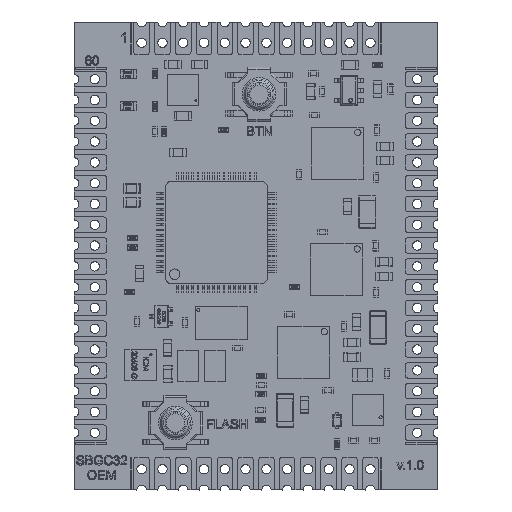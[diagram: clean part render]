
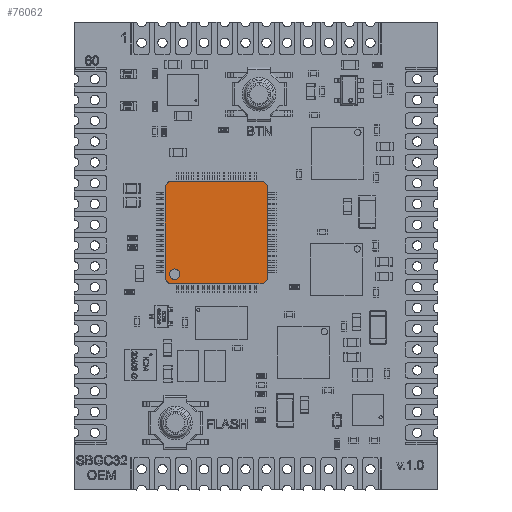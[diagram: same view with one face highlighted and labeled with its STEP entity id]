
A CAD part, top view. The second image highlights one B-rep face of the part: STEP entity #76062.
In plain terms, the highlighted planar face has unit normal (0, 0, 1).
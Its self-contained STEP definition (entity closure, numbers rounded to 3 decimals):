
#9814=FACE_OUTER_BOUND('',#14109,.T.);
#14109=EDGE_LOOP('',(#57640,#57641,#57642,#57643,#57644,#57645,#57646,#57647));
#20175=LINE('',#111204,#27561);
#20178=LINE('',#111210,#27564);
#20181=LINE('',#111216,#27567);
#20184=LINE('',#111222,#27570);
#20187=LINE('',#111228,#27573);
#20190=LINE('',#111234,#27576);
#20193=LINE('',#111240,#27579);
#20195=LINE('',#111243,#27581);
#27561=VECTOR('',#92306,1.);
#27564=VECTOR('',#92311,1.);
#27567=VECTOR('',#92316,1.);
#27570=VECTOR('',#92321,1.);
#27573=VECTOR('',#92326,1.);
#27576=VECTOR('',#92331,1.);
#27579=VECTOR('',#92336,1.);
#27581=VECTOR('',#92340,1.);
#34475=VERTEX_POINT('',#111198);
#34477=VERTEX_POINT('',#111202);
#34479=VERTEX_POINT('',#111208);
#34481=VERTEX_POINT('',#111214);
#34483=VERTEX_POINT('',#111220);
#34485=VERTEX_POINT('',#111226);
#34487=VERTEX_POINT('',#111232);
#34489=VERTEX_POINT('',#111238);
#42935=EDGE_CURVE('',#34475,#34477,#20175,.T.);
#42938=EDGE_CURVE('',#34477,#34479,#20178,.T.);
#42941=EDGE_CURVE('',#34479,#34481,#20181,.T.);
#42944=EDGE_CURVE('',#34481,#34483,#20184,.T.);
#42947=EDGE_CURVE('',#34483,#34485,#20187,.T.);
#42950=EDGE_CURVE('',#34485,#34487,#20190,.T.);
#42953=EDGE_CURVE('',#34487,#34489,#20193,.T.);
#42955=EDGE_CURVE('',#34489,#34475,#20195,.T.);
#57640=ORIENTED_EDGE('',*,*,#42935,.T.);
#57641=ORIENTED_EDGE('',*,*,#42938,.T.);
#57642=ORIENTED_EDGE('',*,*,#42941,.T.);
#57643=ORIENTED_EDGE('',*,*,#42944,.T.);
#57644=ORIENTED_EDGE('',*,*,#42947,.T.);
#57645=ORIENTED_EDGE('',*,*,#42950,.T.);
#57646=ORIENTED_EDGE('',*,*,#42953,.T.);
#57647=ORIENTED_EDGE('',*,*,#42955,.T.);
#73251=PLANE('',#81667);
#76062=ADVANCED_FACE('',(#9814),#73251,.F.);
#81667=AXIS2_PLACEMENT_3D('',#111245,#92343,#92344);
#92306=DIRECTION('',(-0.707,0.707,0.));
#92311=DIRECTION('',(-1.,0.,0.));
#92316=DIRECTION('',(-0.707,-0.707,0.));
#92321=DIRECTION('',(0.,-1.,0.));
#92326=DIRECTION('',(0.707,-0.707,0.));
#92331=DIRECTION('',(1.,0.,0.));
#92336=DIRECTION('',(0.707,0.707,0.));
#92340=DIRECTION('',(0.,1.,0.));
#92343=DIRECTION('center_axis',(0.,0.,-1.));
#92344=DIRECTION('ref_axis',(-1.,0.,0.));
#111198=CARTESIAN_POINT('',(4.9,4.5,1.1));
#111202=CARTESIAN_POINT('',(4.5,4.9,1.1));
#111204=CARTESIAN_POINT('',(4.9,4.5,1.1));
#111208=CARTESIAN_POINT('',(-4.5,4.9,1.1));
#111210=CARTESIAN_POINT('',(4.5,4.9,1.1));
#111214=CARTESIAN_POINT('',(-4.9,4.5,1.1));
#111216=CARTESIAN_POINT('',(-4.5,4.9,1.1));
#111220=CARTESIAN_POINT('',(-4.9,-4.5,1.1));
#111222=CARTESIAN_POINT('',(-4.9,4.5,1.1));
#111226=CARTESIAN_POINT('',(-4.5,-4.9,1.1));
#111228=CARTESIAN_POINT('',(-4.9,-4.5,1.1));
#111232=CARTESIAN_POINT('',(4.5,-4.9,1.1));
#111234=CARTESIAN_POINT('',(-4.5,-4.9,1.1));
#111238=CARTESIAN_POINT('',(4.9,-4.5,1.1));
#111240=CARTESIAN_POINT('',(4.5,-4.9,1.1));
#111243=CARTESIAN_POINT('',(4.9,-4.5,1.1));
#111245=CARTESIAN_POINT('Origin',(4.9,4.5,1.1));
